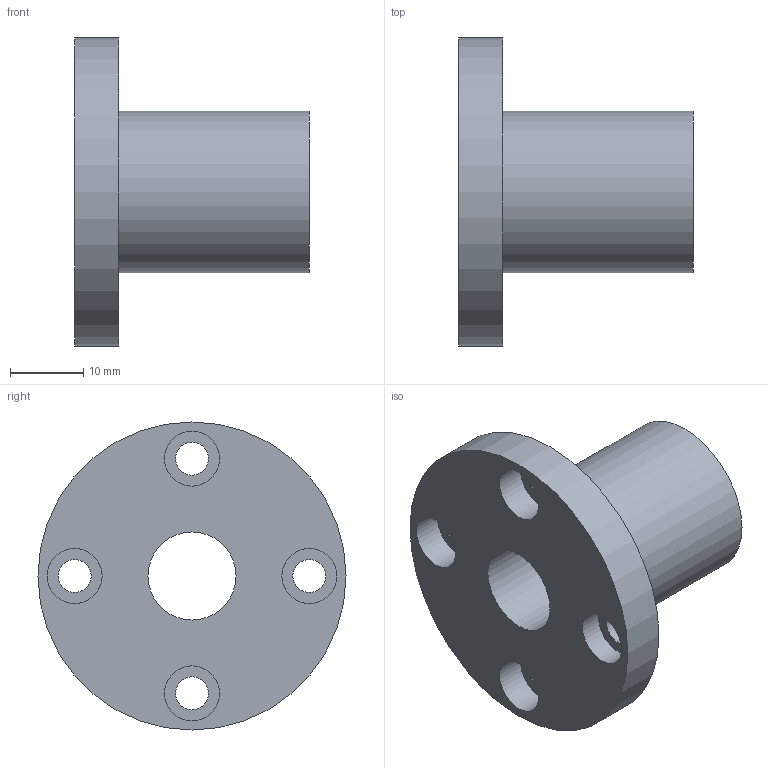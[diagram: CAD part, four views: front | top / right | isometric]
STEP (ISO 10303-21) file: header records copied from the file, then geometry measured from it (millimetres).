
FILE_DESCRIPTION( ( 'STEP AP203' ), '1' );
FILE_NAME( 'p:/temp/worker_2/temp/exporttempdir_1512_1828_WFMtB/format_0/LMEF12UU.stp', '2020-05-07T03:19:21', ( 'License CC BY-ND 4.0' ), ( 'CADENAS' ), ' ', 'PARTsolutions', ' ' );
FILE_SCHEMA( ( 'CONFIG_CONTROL_DESIGN' ) );
Length unit declared in the file: millimetre
Products named in the file (1): _LMEF12UU
Bounding box: 32 x 42 x 42 mm (x, y, z)
Volume: 13759.9 mm3; surface area: 6696.9 mm2
Topology: 1 solids, 1 shells, 18 faces, 34 edges, 23 vertices
Faces by surface type: cylinder 11, plane 7
Full cylindrical faces by diameter (mm): 4.5 x4, 7.5 x4, 12 x1, 22 x1, 42 x1
Entity records: 468 total; most frequent: DIRECTION 82, CARTESIAN_POINT 63, EDGE_LOOP 44, ORIENTED_EDGE 44, AXIS2_PLACEMENT_3D 41, FACE_OUTER_BOUND 29, EDGE_CURVE 22, VERTEX_POINT 22
